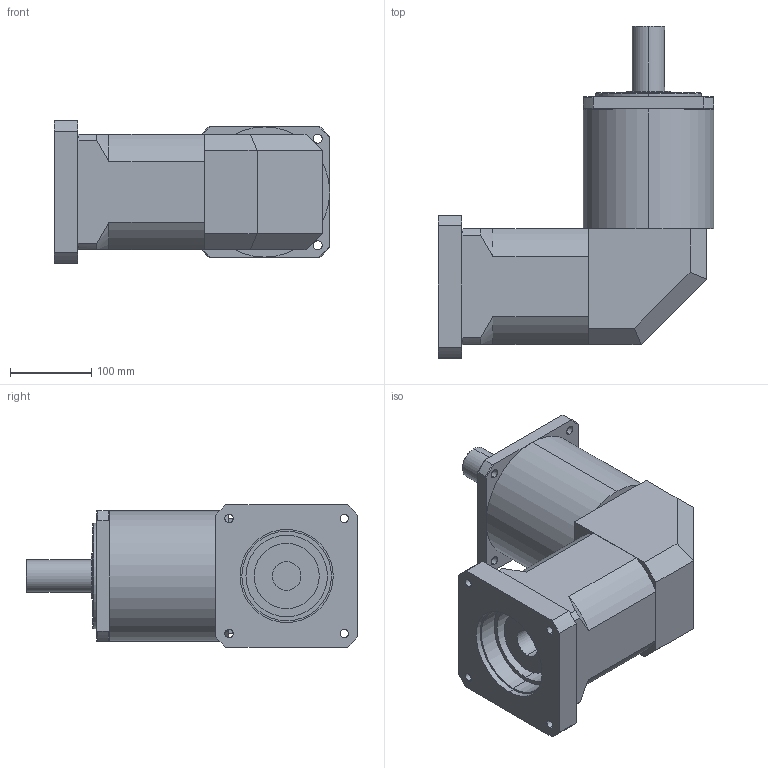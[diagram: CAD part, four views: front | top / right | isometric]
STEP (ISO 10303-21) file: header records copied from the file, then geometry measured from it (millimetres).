
FILE_DESCRIPTION (( 'STEP AP214' ), '1' );
FILE_NAME ('PFR160-L2-S2-P2 35-114.STEP', '2020-11-09T05:48:09', ( '微软用户' ), ( '微软中国' ), 'SwSTEP 2.0', 'SolidWorks 2014', '' );
FILE_SCHEMA (( 'AUTOMOTIVE_DESIGN' ));
Length unit declared in the file: millimetre
Products named in the file (7): 转角新版160单级输入端（35-80-114.3-3-4-13.5-200）; PFR160-L2-S2-P2 35-114; 蛌褒陔唳142眊极; 转角新版160双级输出端
Assembly tree (3 placements, depth 2):
  转角新版160单级输入端（35-80-114.3-3-4-13.5-200）
  PFR160-L2-S2-P2 35-114
    转角新版160双级输出端
    转角新版160单级输入端（35-80-114.3-3-4-13.5-200）
    蛌褒陔唳142眊极
  转角新版160双级输出端
  蛌褒陔唳142眊极
Bounding box: 338 x 407.5 x 175 mm (x, y, z)
Volume: 8984172.2 mm3; surface area: 459630.9 mm2
Topology: 3 solids, 3 shells, 136 faces, 343 edges, 223 vertices
Faces by surface type: cylinder 64, plane 50, cone 22
Entity records: 4464 total; most frequent: CARTESIAN_POINT 893, DIRECTION 751, ORIENTED_EDGE 682, EDGE_CURVE 341, AXIS2_PLACEMENT_3D 297, VERTEX_POINT 223, EDGE_LOOP 164, VECTOR 157
